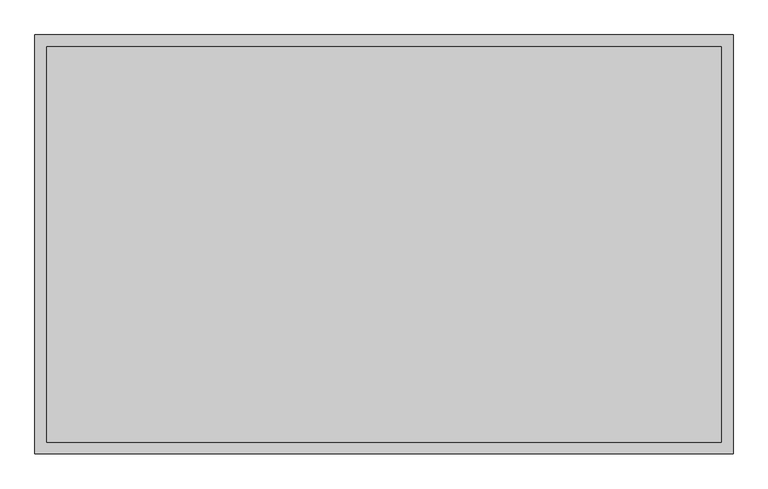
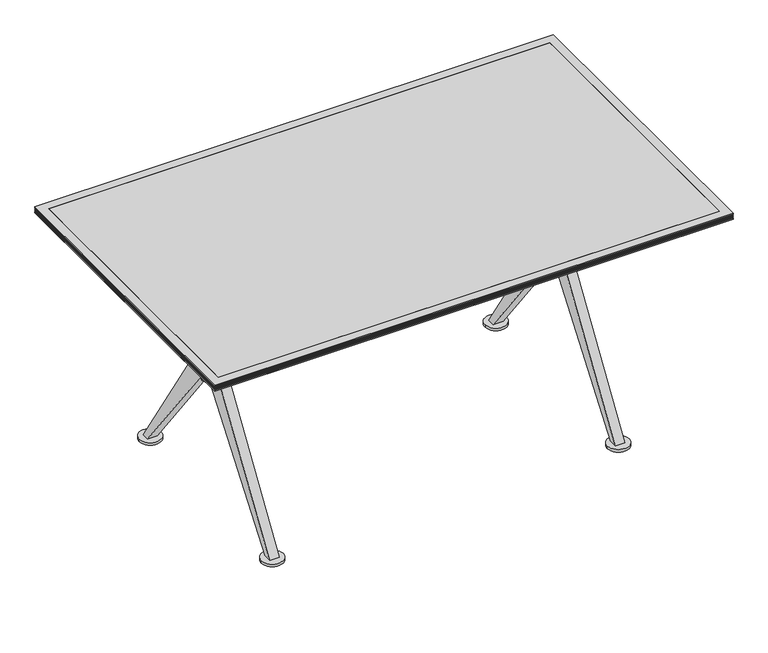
"""IFC4 building model written with IfcOpenShell, lengths in millimetres: furniture geometry, Coalesse_AM_Table_Conference_Ballet_Rectangular_XBase : Folding - 60L x 36W."""

from ifc_helpers import new_model, si_unit, point, frame, frame_2d, origin, origin_with_axes, place, context, project, spatial, polyline, circle_curve, trimmed, segment, composite_curve, outline, extrude, faceted_brep, source, transform, mapped, element, save
from ifc_brep_helpers import plane_surface, cylinder_surface, advanced_brep


def furniture_e3f77849(model_context):
    return source(origin(), model_context, "Body", "SolidModel", [
        extrude(outline(composite_curve([segment(trimmed(circle_curve(frame_2d((-507.9480536, 310.3799254)), 25.4), [point((-533.3480536, 310.3799254))], [point((-482.5480536, 310.3799254))], False, "CARTESIAN"), True, "CONTINUOUS"), segment(trimmed(circle_curve(frame_2d((-507.9480536, 310.3799254)), 25.4), [point((-482.5480536, 310.3799254))], [point((-533.3480536, 310.3799254))], False, "CARTESIAN"), True, "CONTINUOUS")], self_intersect=False)), origin_with_axes(), (0.0, 0.0, 1.0), 4.5427804),
        extrude(outline(composite_curve([segment(trimmed(circle_curve(frame_2d((-508.5656541, -311.83186)), 25.4), [point((-533.9656541, -311.83186))], [point((-483.1656541, -311.83186))], False, "CARTESIAN"), True, "CONTINUOUS"), segment(trimmed(circle_curve(frame_2d((-508.5656541, -311.83186)), 25.4), [point((-483.1656541, -311.83186))], [point((-533.9656541, -311.83186))], False, "CARTESIAN"), True, "CONTINUOUS")], self_intersect=False)), origin_with_axes(), (0.0, 0.0, 1.0), 4.5427804),
        extrude(outline(composite_curve([segment(trimmed(circle_curve(frame_2d((507.9480536, 310.388)), 25.4), [point((482.5480536, 310.388))], [point((533.3480536, 310.388))], False, "CARTESIAN"), True, "CONTINUOUS"), segment(trimmed(circle_curve(frame_2d((507.9480536, 310.388)), 25.4), [point((533.3480536, 310.388))], [point((482.5480536, 310.388))], False, "CARTESIAN"), True, "CONTINUOUS")], self_intersect=False)), origin_with_axes(), (0.0, 0.0, 1.0), 4.5427804),
        extrude(outline(composite_curve([segment(trimmed(circle_curve(frame_2d((508.5656541, -311.83186)), 25.4), [point((483.1656541, -311.83186))], [point((533.9656541, -311.83186))], False, "CARTESIAN"), True, "CONTINUOUS"), segment(trimmed(circle_curve(frame_2d((508.5656541, -311.83186)), 25.4), [point((533.9656541, -311.83186))], [point((483.1656541, -311.83186))], False, "CARTESIAN"), True, "CONTINUOUS")], self_intersect=False)), origin_with_axes(), (0.0, 0.0, 1.0), 4.5427804),
        extrude(outline(composite_curve([segment(trimmed(circle_curve(frame_2d((-507.9480536, 310.3799254)), 31.7510292), [point((-539.6990828, 310.3799254))], [point((-476.1970244, 310.3799254))], False, "CARTESIAN"), True, "CONTINUOUS"), segment(trimmed(circle_curve(frame_2d((-507.9480536, 310.3799254)), 31.7510292), [point((-476.1970244, 310.3799254))], [point((-539.6990828, 310.3799254))], False, "CARTESIAN"), True, "CONTINUOUS")], self_intersect=False)), frame((0.0, 0.0, 4.5427804), z_axis=(0.0, 0.0, 1.0), x_axis=(1.0, 0.0, 0.0)), (0.0, 0.0, 1.0), 8.1572196),
        extrude(outline(composite_curve([segment(trimmed(circle_curve(frame_2d((-508.5656541, -311.83186)), 31.75), [point((-540.3156541, -311.83186))], [point((-476.8156541, -311.83186))], False, "CARTESIAN"), True, "CONTINUOUS"), segment(trimmed(circle_curve(frame_2d((-508.5656541, -311.83186)), 31.75), [point((-476.8156541, -311.83186))], [point((-540.3156541, -311.83186))], False, "CARTESIAN"), True, "CONTINUOUS")], self_intersect=False)), frame((0.0, 0.0, 4.5427804), z_axis=(0.0, 0.0, 1.0), x_axis=(1.0, 0.0, 0.0)), (0.0, 0.0, 1.0), 8.1572196),
        extrude(outline(composite_curve([segment(trimmed(circle_curve(frame_2d((507.9480536, 310.388)), 31.7510292), [point((476.1970244, 310.388))], [point((539.6990828, 310.388))], False, "CARTESIAN"), True, "CONTINUOUS"), segment(trimmed(circle_curve(frame_2d((507.9480536, 310.388)), 31.7510292), [point((539.6990828, 310.388))], [point((476.1970244, 310.388))], False, "CARTESIAN"), True, "CONTINUOUS")], self_intersect=False)), frame((0.0, 0.0, 4.5427804), z_axis=(0.0, 0.0, 1.0), x_axis=(1.0, 0.0, 0.0)), (0.0, 0.0, 1.0), 8.1572196),
        extrude(outline(composite_curve([segment(trimmed(circle_curve(frame_2d((508.5656541, -311.83186)), 31.75), [point((476.8156541, -311.83186))], [point((540.3156541, -311.83186))], False, "CARTESIAN"), True, "CONTINUOUS"), segment(trimmed(circle_curve(frame_2d((508.5656541, -311.83186)), 31.75), [point((540.3156541, -311.83186))], [point((476.8156541, -311.83186))], False, "CARTESIAN"), True, "CONTINUOUS")], self_intersect=False)), frame((0.0, 0.0, 4.5427804), z_axis=(0.0, 0.0, 1.0), x_axis=(1.0, 0.0, 0.0)), (0.0, 0.0, 1.0), 8.1572196),
        extrude(outline(polyline([(21.0343629, 381.0), (21.0343629, 482.7111245), (322.2625018, 12.7), (299.8750745, 12.7), (21.0343629, 381.0)])), frame((493.649, 0.0, 0.0), z_axis=(1.0, 0.0, 0.0), x_axis=(0.0, 1.0, 0.0)), (0.0, 0.0, 1.0), 28.575),
        extrude(outline(polyline([(-21.0343629, 381.0), (-299.8750745, 12.7), (-322.2625018, 12.7), (-21.0343629, 482.7111245), (-21.0343629, 381.0)])), frame((493.649, 0.0, 0.0), z_axis=(1.0, 0.0, 0.0), x_axis=(0.0, 1.0, 0.0)), (0.0, 0.0, 1.0), 28.575),
        extrude(outline(polyline([(21.0343629, 381.0), (21.0343629, 482.7111245), (322.2625018, 12.7), (299.8750745, 12.7), (21.0343629, 381.0)])), frame((-522.224, 0.0, 0.0), z_axis=(1.0, 0.0, 0.0), x_axis=(0.0, 1.0, 0.0)), (0.0, 0.0, 1.0), 28.5877172),
        extrude(outline(polyline([(-21.0343629, 381.0), (-299.8750745, 12.7), (-322.2625018, 12.7), (-21.0343629, 482.7111245), (-21.0343629, 381.0)])), frame((-522.224, 0.0, 0.0), z_axis=(1.0, 0.0, 0.0), x_axis=(0.0, 1.0, 0.0)), (0.0, 0.0, 1.0), 28.5877172),
        extrude(outline(polyline([(-21.0343629, 577.7388634), (-333.375, 698.5000242), (-305.990625, 698.5000242), (-21.0343629, 641.3500242), (-21.0343629, 577.7388634)])), frame((493.649, 0.0, 0.0), z_axis=(1.0, 0.0, 0.0), x_axis=(0.0, 1.0, 0.0)), (0.0, 0.0, 1.0), 28.575),
        extrude(outline(polyline([(21.0343629, 577.7388634), (21.0343629, 641.3501773), (305.990625, 698.5000242), (333.375, 698.5000242), (21.0343629, 577.7388634)])), frame((493.649, 0.0, 0.0), z_axis=(1.0, 0.0, 0.0), x_axis=(0.0, 1.0, 0.0)), (0.0, 0.0, 1.0), 28.575),
        extrude(outline(polyline([(-21.0343629, 577.7388634), (-333.375, 698.5000242), (-305.990625, 698.5000242), (-21.0343629, 641.3500242), (-21.0343629, 577.7388634)])), frame((-522.224, 0.0, 0.0), z_axis=(1.0, 0.0, 0.0), x_axis=(0.0, 1.0, 0.0)), (0.0, 0.0, 1.0), 28.5877172),
        extrude(outline(polyline([(21.0343629, 577.7388634), (21.0343629, 641.3501773), (305.990625, 698.5000242), (333.375, 698.5000242), (21.0343629, 577.7388634)])), frame((-522.224, 0.0, 0.0), z_axis=(1.0, 0.0, 0.0), x_axis=(0.0, 1.0, 0.0)), (0.0, 0.0, 1.0), 28.5877172),
        advanced_brep(
        [(486.5269775, 12.6999879, 492.1250121), (-486.5269775, 12.6999879, 492.1250121), (-486.5269775, 12.6999879, 568.3250121), (486.5269775, 12.6999879, 568.3250121), (-483.1240298, 0.0, 568.3250121), (-486.5269775, -12.6999879, 568.3250121), (486.5269775, -12.6999879, 568.3250121), (483.1240298, 0.0, 568.3250121), (-486.5269775, -12.6999879, 492.1250121), (486.5269775, -12.6999879, 492.1250121), (483.1240298, 0.0, 492.1250121), (-483.1240298, 0.0, 492.1250121), (-533.9240298, 0.0, 641.3500242), (-483.1240298, 0.0, 641.3500242), (483.1240298, 0.0, 641.3500242), (533.9240298, 0.0, 641.3500242), (-533.9240298, 0.0, 381.0), (-483.1240298, 0.0, 381.0), (483.1240298, 0.0, 381.0), (533.9240298, 0.0, 381.0)],
        [
            (0, 1),
            (1, 2),
            (2, 3),
            (3, 0),
            (2, 4, circle_curve(frame((-508.5240298, 0.0, 568.3250121), z_axis=(0.0, 0.0, -1.0), x_axis=(1.0, 0.0, 0.0)), 25.4)),
            (4, 5, circle_curve(frame((-508.5240298, 0.0, 568.3250121), z_axis=(0.0, 0.0, -1.0), x_axis=(1.0, 0.0, 0.0)), 25.4)),
            (5, 6),
            (6, 7, circle_curve(frame((508.5240298, 0.0, 568.3250121), z_axis=(0.0, 0.0, -1.0), x_axis=(1.0, 0.0, 0.0)), 25.4)),
            (7, 3, circle_curve(frame((508.5240298, 0.0, 568.3250121), z_axis=(0.0, 0.0, -1.0), x_axis=(1.0, 0.0, 0.0)), 25.4)),
            (5, 8),
            (8, 9),
            (9, 6),
            (0, 10, circle_curve(frame((508.5240298, 0.0, 492.1250121), z_axis=(0.0, 0.0, 1.0), x_axis=(1.0, 0.0, 0.0)), 25.4)),
            (10, 9, circle_curve(frame((508.5240298, 0.0, 492.1250121), z_axis=(0.0, 0.0, 1.0), x_axis=(1.0, 0.0, 0.0)), 25.4)),
            (8, 11, circle_curve(frame((-508.5240298, 0.0, 492.1250121), z_axis=(0.0, 0.0, 1.0), x_axis=(1.0, 0.0, 0.0)), 25.4)),
            (11, 1, circle_curve(frame((-508.5240298, 0.0, 492.1250121), z_axis=(0.0, 0.0, 1.0), x_axis=(1.0, 0.0, 0.0)), 25.4)),
            (12, 13, circle_curve(frame((-508.5240298, 0.0, 641.3500242), z_axis=(0.0, 0.0, 1.0), x_axis=(1.0, 0.0, 0.0)), 25.4)),
            (13, 12, circle_curve(frame((-508.5240298, 0.0, 641.3500242), z_axis=(0.0, 0.0, 1.0), x_axis=(1.0, 0.0, 0.0)), 25.4)),
            (14, 15, circle_curve(frame((508.5240298, 0.0, 641.3500242), z_axis=(0.0, 0.0, 1.0), x_axis=(1.0, 0.0, 0.0)), 25.4)),
            (15, 14, circle_curve(frame((508.5240298, 0.0, 641.3500242), z_axis=(0.0, 0.0, 1.0), x_axis=(1.0, 0.0, 0.0)), 25.4)),
            (16, 17, circle_curve(frame((-508.5240298, 0.0, 381.0), z_axis=(0.0, 0.0, -1.0), x_axis=(1.0, 0.0, 0.0)), 25.4)),
            (17, 16, circle_curve(frame((-508.5240298, 0.0, 381.0), z_axis=(0.0, 0.0, -1.0), x_axis=(1.0, 0.0, 0.0)), 25.4)),
            (18, 19, circle_curve(frame((508.5240298, 0.0, 381.0), z_axis=(0.0, 0.0, -1.0), x_axis=(1.0, 0.0, 0.0)), 25.4)),
            (19, 18, circle_curve(frame((508.5240298, 0.0, 381.0), z_axis=(0.0, 0.0, -1.0), x_axis=(1.0, 0.0, 0.0)), 25.4)),
            (12, 16),
            (17, 11),
            (4, 13),
            (14, 7),
            (10, 18),
            (19, 15),
        ],
        [
            plane_surface(frame((493.649, 12.6999879, 492.1250121), z_axis=(0.0, 1.0, 0.0), x_axis=(-1.0, 0.0, 0.0))),
            plane_surface(frame((493.649, 12.6999879, 568.3250121), z_axis=(0.0, 0.0, 1.0), x_axis=(-1.0, 0.0, 0.0))),
            plane_surface(frame((493.649, -12.6999879, 568.3250121), z_axis=(0.0, -1.0, 0.0), x_axis=(-1.0, 0.0, 0.0))),
            plane_surface(frame((493.649, -12.6999879, 492.1250121), z_axis=(0.0, 0.0, -1.0), x_axis=(-1.0, 0.0, 0.0))),
            plane_surface(frame((-483.1240298, 0.0, 641.3500242), z_axis=(0.0, 0.0, 1.0), x_axis=(0.0, 1.0, 0.0))),
            plane_surface(frame((-483.1240298, 0.0, 381.0), z_axis=(0.0, 0.0, -1.0), x_axis=(0.0, -1.0, 0.0))),
            cylinder_surface(frame((-508.5240298, 0.0, 381.0), z_axis=(0.0, 0.0, 1.0), x_axis=(1.0, 0.0, 0.0)), 25.4),
            cylinder_surface(frame((508.5240298, 0.0, 0.0), z_axis=(0.0, 0.0, 1.0), x_axis=(1.0, 0.0, 0.0)), 25.4),
        ],
        [
            (0, [[1, 2, 3, 4]]),
            (1, [[-3, 5, 6, 7, 8, 9]]),
            (2, [[-7, 10, 11, 12]]),
            (3, [[-1, 13, 14, -11, 15, 16]]),
            (4, [[17, 18]]),
            (4, [[19, 20]]),
            (5, [[21, 22]]),
            (5, [[23, 24]]),
            (6, [[-17, 25, -22, 26, -15, -10, -6, 27]]),
            (6, [[-18, -27, -5, -2, -16, -26, -21, -25]]),
            (7, [[-19, 28, -8, -12, -14, 29, -24, 30]]),
            (7, [[-20, -30, -23, -29, -13, -4, -9, -28]]),
        ],
    ),
        faceted_brep([(-762.0003633, 457.2, 704.85), (-736.6003876, 431.8000242, 698.5000242), (-736.6003876, -431.7999516, 698.5000242), (-762.0003633, -457.1999273, 704.85), (-762.0003633, 457.2, 708.0250242), (-762.0003633, -457.1999273, 708.0250242), (-758.8253755, 454.0250121, 709.6125), (-758.8253755, -454.0249394, 709.6125), (-762.0003633, 457.2, 711.1999758), (-762.0003633, -457.1999273, 711.1999758), (-758.8253755, 454.0250121, 712.7875242), (-758.8253755, -454.0249394, 712.7875242), (-762.0003633, 457.2, 714.375), (-762.0003633, -457.1999273, 714.375), (-758.8253755, 454.0250121, 715.9624758), (-758.8253755, -454.0249394, 715.9624758), (-762.0003633, 457.2, 717.5500242), (-762.0003633, -457.1999273, 717.5500242), (-758.8253755, 454.0250121, 719.1375), (-758.8253755, -454.0249394, 719.1375), (-762.0003633, 457.2, 720.7249758), (-762.0003633, -457.1999273, 720.7249758), (-762.0003633, 457.2, 723.9), (-762.0003633, -457.1999273, 723.9), (-736.6003876, 431.8000242, 723.9), (-736.6003876, -431.7999516, 723.9), (736.6, -431.7999516, 698.5000242), (761.9999758, -457.1999273, 704.85), (761.9999758, -457.1999273, 708.0250242), (758.8249879, -454.0249394, 709.6125), (761.9999758, -457.1999273, 711.1999758), (758.8249879, -454.0249394, 712.7875242), (761.9999758, -457.1999273, 714.375), (758.8249879, -454.0249394, 715.9624758), (761.9999758, -457.1999273, 717.5500242), (758.8249879, -454.0249394, 719.1375), (761.9999758, -457.1999273, 720.7249758), (761.9999758, -457.1999273, 723.9), (736.6, -431.7999516, 723.9), (736.6, 431.8000242, 698.5000242), (761.9999758, 457.2, 704.85), (761.9999758, 457.2, 708.0250242), (758.8249879, 454.0250121, 709.6125), (761.9999758, 457.2, 711.1999758), (758.8249879, 454.0250121, 712.7875242), (761.9999758, 457.2, 714.375), (758.8249879, 454.0250121, 715.9624758), (761.9999758, 457.2, 717.5500242), (758.8249879, 454.0250121, 719.1375), (761.9999758, 457.2, 720.7249758), (761.9999758, 457.2, 723.9), (736.6, 431.8000242, 723.9)], [[[0, 1, 2, 3]], [[4, 0, 3, 5]], [[6, 4, 5, 7]], [[8, 6, 7, 9]], [[10, 8, 9, 11]], [[12, 10, 11, 13]], [[14, 12, 13, 15]], [[16, 14, 15, 17]], [[18, 16, 17, 19]], [[20, 18, 19, 21]], [[22, 20, 21, 23]], [[1, 24, 25, 2]], [[3, 2, 26, 27]], [[5, 3, 27, 28]], [[7, 5, 28, 29]], [[9, 7, 29, 30]], [[11, 9, 30, 31]], [[13, 11, 31, 32]], [[15, 13, 32, 33]], [[17, 15, 33, 34]], [[19, 17, 34, 35]], [[21, 19, 35, 36]], [[23, 21, 36, 37]], [[2, 25, 38, 26]], [[27, 26, 39, 40]], [[28, 27, 40, 41]], [[29, 28, 41, 42]], [[30, 29, 42, 43]], [[31, 30, 43, 44]], [[32, 31, 44, 45]], [[33, 32, 45, 46]], [[34, 33, 46, 47]], [[35, 34, 47, 48]], [[36, 35, 48, 49]], [[37, 36, 49, 50]], [[26, 38, 51, 39]], [[40, 39, 1, 0]], [[41, 40, 0, 4]], [[42, 41, 4, 6]], [[43, 42, 6, 8]], [[44, 43, 8, 10]], [[45, 44, 10, 12]], [[46, 45, 12, 14]], [[47, 46, 14, 16]], [[48, 47, 16, 18]], [[49, 48, 18, 20]], [[50, 49, 20, 22]], [[23, 37, 50, 22], [24, 51, 38, 25]], [[39, 51, 24, 1]]]),
        extrude(outline(polyline([(736.6, 431.8000242), (736.6, -431.7999516), (-736.6003876, -431.7999516), (-736.6003876, 431.8000242), (736.6, 431.8000242)])), frame((0.0, 0.0, 704.85), z_axis=(0.0, 0.0, 1.0), x_axis=(1.0, 0.0, 0.0)), (0.0, 0.0, 1.0), 19.05),
    ])


if __name__ == "__main__":
    model = new_model("IFC4")
    model_context = context("Model", 3, world=origin())
    ifc_project = project(units=[si_unit("LENGTHUNIT", "METRE", prefix="MILLI")], contexts=[model_context])
    site = spatial("IfcSite", under=ifc_project)
    building = spatial("IfcBuilding", under=site)
    placement = place(None, origin())
    furniture_shape = furniture_e3f77849(model_context)
    element("IfcFurniture", 1, ObjectType="Coalesse_AM_Table_Conference_Ballet_Rectangular_XBase : Folding - 60L x 36W", at=placement, inside=building, context=model_context, shape_type="MappedRepresentation", body=[
        mapped(furniture_shape, transform((0.0, 0.0, 0.0), x_axis=(1.0, 0.0, 0.0), y_axis=(0.0, 1.0, 0.0), z_axis=(0.0, 0.0, 1.0))),
    ])
    save(model, "model.ifc")
